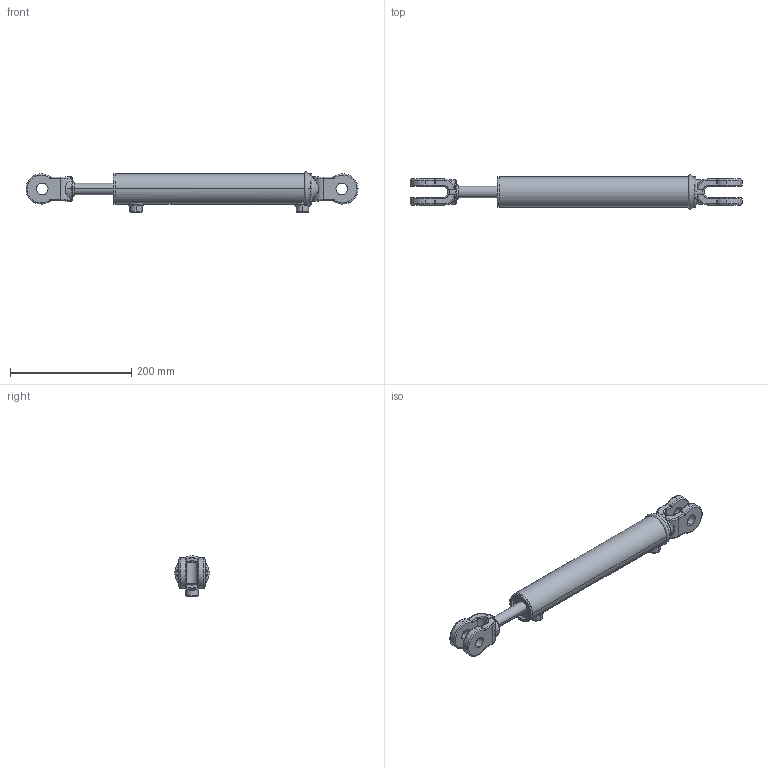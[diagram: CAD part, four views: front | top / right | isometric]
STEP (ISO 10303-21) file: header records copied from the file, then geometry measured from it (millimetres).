
FILE_DESCRIPTION (( 'STEP AP203' ), '1' );
FILE_NAME ('CL-CL150075x254 (10).STEP', '2014-11-20T20:41:44', ( '' ), ( '' ), 'SwSTEP 2.0', 'SolidWorks 2014', '' );
FILE_SCHEMA (( 'CONFIG_CONTROL_DESIGN' ));
Length unit declared in the file: millimetre
Products named in the file (3): 10 SPARE; CL-CL150075x254 (10); CL-CL150075x254 (10) BODY
Assembly tree (2 placements, depth 2):
  CL-CL150075x254 (10)
    CL-CL150075x254 (10) BODY
    10 SPARE
Bounding box: 548.41 x 56.77 x 66.78 mm (x, y, z)
Volume: 866700 mm3; surface area: 121440.3 mm2
Topology: 2 solids, 2 shells, 261 faces, 641 edges, 379 vertices
Faces by surface type: bspline 116, cylinder 88, plane 32, torus 17, cone 8
Entity records: 23685 total; most frequent: CARTESIAN_POINT 18075, ORIENTED_EDGE 1250, DIRECTION 902, EDGE_CURVE 625, VERTEX_POINT 379, AXIS2_PLACEMENT_3D 376, EDGE_LOOP 280, ADVANCED_FACE 261
